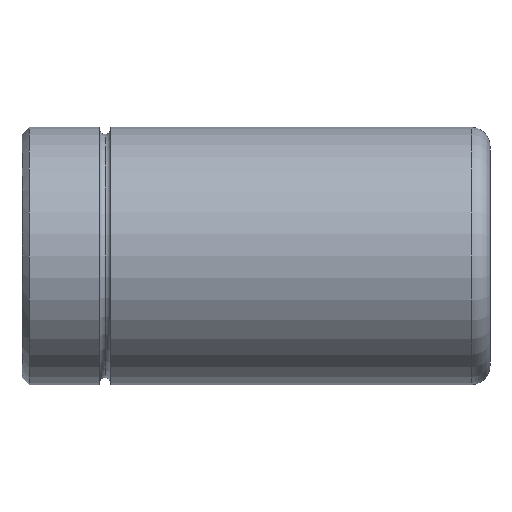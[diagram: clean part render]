
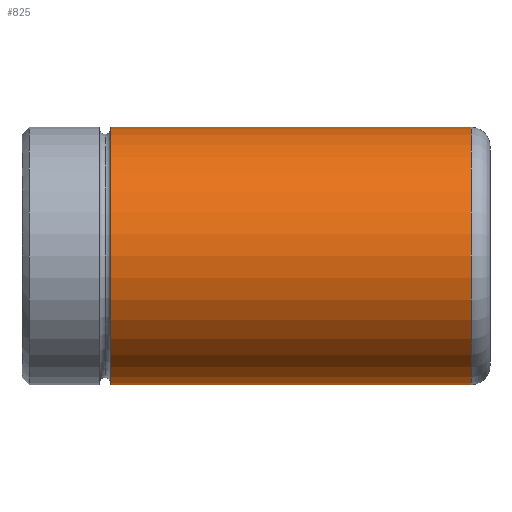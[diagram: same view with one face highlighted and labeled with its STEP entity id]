
A CAD part, front view. The second image highlights one B-rep face of the part: STEP entity #825.
In plain terms, the highlighted cylindrical face has radius 27.5 mm (diameter 55 mm), a partial arc.
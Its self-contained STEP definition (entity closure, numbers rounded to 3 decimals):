
#641=CARTESIAN_POINT('Vertex',(18.975,0.,27.5)) ;
#648=CARTESIAN_POINT('Vertex',(18.975,0.,-27.5)) ;
#674=CARTESIAN_POINT('Axis2P3D Location',(18.975,0.,0.)) ;
#678=CARTESIAN_POINT('Vertex',(18.975,-27.5,0.)) ;
#681=CARTESIAN_POINT('Axis2P3D Location',(18.975,0.,0.)) ;
#765=CARTESIAN_POINT('Line Origine',(100.,0.,27.5)) ;
#769=CARTESIAN_POINT('Vertex',(96.,0.,27.5)) ;
#783=CARTESIAN_POINT('Vertex',(96.,0.,-27.5)) ;
#786=CARTESIAN_POINT('Line Origine',(100.,0.,-27.5)) ;
#800=CARTESIAN_POINT('Axis2P3D Location',(100.,0.,0.)) ;
#805=CARTESIAN_POINT('Axis2P3D Location',(96.,0.,0.)) ;
#809=CARTESIAN_POINT('Vertex',(96.,-27.5,0.)) ;
#812=CARTESIAN_POINT('Axis2P3D Location',(96.,0.,0.)) ;
#675=DIRECTION('Axis2P3D Direction',(1.,0.,-0.)) ;
#682=DIRECTION('Axis2P3D Direction',(1.,0.,-0.)) ;
#766=DIRECTION('Vector Direction',(-1.,0.,0.)) ;
#787=DIRECTION('Vector Direction',(-1.,0.,0.)) ;
#801=DIRECTION('Axis2P3D Direction',(-1.,-0.,-0.)) ;
#802=DIRECTION('Axis2P3D XDirection',(0.,0.,-1.)) ;
#806=DIRECTION('Axis2P3D Direction',(-1.,-0.,-0.)) ;
#813=DIRECTION('Axis2P3D Direction',(-1.,-0.,-0.)) ;
#676=AXIS2_PLACEMENT_3D('Circle Axis2P3D',#674,#675,$) ;
#683=AXIS2_PLACEMENT_3D('Circle Axis2P3D',#681,#682,$) ;
#803=AXIS2_PLACEMENT_3D('Cylinder Axis2P3D',#800,#801,#802) ;
#807=AXIS2_PLACEMENT_3D('Circle Axis2P3D',#805,#806,$) ;
#814=AXIS2_PLACEMENT_3D('Circle Axis2P3D',#812,#813,$) ;
#818=ORIENTED_EDGE('',*,*,#790,.T.) ;
#819=ORIENTED_EDGE('',*,*,#811,.F.) ;
#820=ORIENTED_EDGE('',*,*,#816,.F.) ;
#821=ORIENTED_EDGE('',*,*,#771,.T.) ;
#822=ORIENTED_EDGE('',*,*,#685,.T.) ;
#823=ORIENTED_EDGE('',*,*,#680,.T.) ;
#767=VECTOR('Line Direction',#766,1.) ;
#788=VECTOR('Line Direction',#787,1.) ;
#825=ADVANCED_FACE('348-40 x 100',(#824),#804,.T.) ;
#677=CIRCLE('generated circle',#676,27.5) ;
#684=CIRCLE('generated circle',#683,27.5) ;
#808=CIRCLE('generated circle',#807,27.5) ;
#815=CIRCLE('generated circle',#814,27.5) ;
#804=CYLINDRICAL_SURFACE('generated cylinder',#803,27.5) ;
#680=EDGE_CURVE('',#679,#649,#677,.T.) ;
#685=EDGE_CURVE('',#642,#679,#684,.T.) ;
#771=EDGE_CURVE('',#770,#642,#768,.T.) ;
#790=EDGE_CURVE('',#649,#784,#789,.F.) ;
#811=EDGE_CURVE('',#810,#784,#808,.F.) ;
#816=EDGE_CURVE('',#770,#810,#815,.F.) ;
#817=EDGE_LOOP('',(#818,#819,#820,#821,#822,#823)) ;
#824=FACE_OUTER_BOUND('',#817,.T.) ;
#768=LINE('Line',#765,#767) ;
#789=LINE('Line',#786,#788) ;
#642=VERTEX_POINT('',#641) ;
#649=VERTEX_POINT('',#648) ;
#679=VERTEX_POINT('',#678) ;
#770=VERTEX_POINT('',#769) ;
#784=VERTEX_POINT('',#783) ;
#810=VERTEX_POINT('',#809) ;
